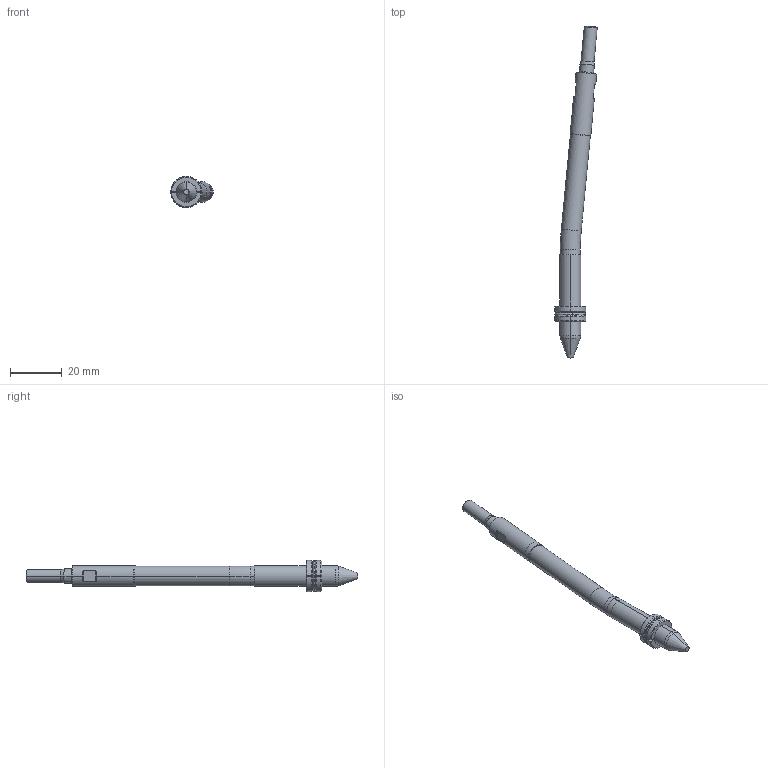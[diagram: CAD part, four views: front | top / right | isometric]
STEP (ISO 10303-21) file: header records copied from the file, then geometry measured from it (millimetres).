
FILE_DESCRIPTION (( 'STEP AP214' ), '1' );
FILE_NAME ('WP080030-EJE 5,5°.STEP', '2021-03-19T15:18:50', ( '' ), ( '' ), 'SwSTEP 2.0', 'SolidWorks 2019', '' );
FILE_SCHEMA (( 'AUTOMOTIVE_DESIGN' ));
Length unit declared in the file: millimetre
Products named in the file (6): Web-WP08-6; Web-WP08-F_WP08-F-ON 5,5ø; WP080030-EJE 5,5°; Web-WP08-1; Web-WP08-2; Web-WP08-7
Assembly tree (5 placements, depth 2):
  WP080030-EJE 5,5°
    Web-WP08-1
    Web-WP08-F_WP08-F-ON 5,5ø
    Web-WP08-2
    Web-WP08-6
    Web-WP08-7
Bounding box: 16.37 x 127.84 x 12 mm (x, y, z)
Volume: 5841.3 mm3; surface area: 4095.3 mm2
Topology: 6 solids, 6 shells, 121 faces, 278 edges, 172 vertices
Faces by surface type: cylinder 36, plane 29, cone 28, torus 28
Entity records: 3957 total; most frequent: CARTESIAN_POINT 763, DIRECTION 648, ORIENTED_EDGE 556, AXIS2_PLACEMENT_3D 281, EDGE_CURVE 278, VERTEX_POINT 172, CIRCLE 152, EDGE_LOOP 126
